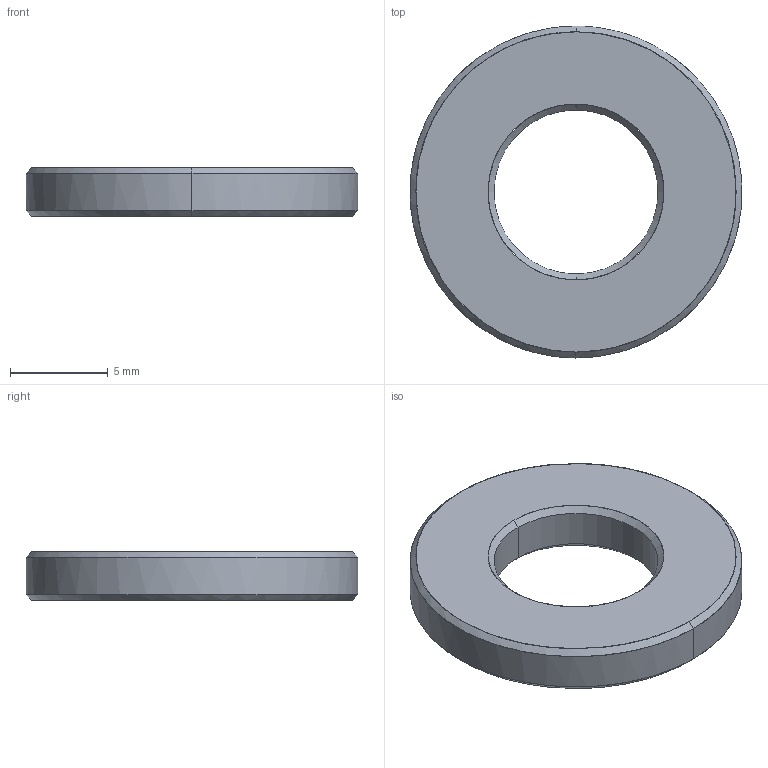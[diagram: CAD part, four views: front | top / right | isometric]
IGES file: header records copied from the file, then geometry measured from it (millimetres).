
Global section: file name: E:\UnigraphicsGraphicData\MISUMI_PRESS-PARTS\IGES\3d_wss8_00530_r00.igs; native system: NX V5.0; preprocessor: UGS NX IGES V5.0; author: MISUMI; date: 20110105.163508; units: millimetre
Bounding box: 16.98 x 17 x 2.5 mm (x, y, z)
Surface area: 515.5 mm2 (no closed solid volume)
Topology: 0 solids, 0 shells, 14 faces, 80 edges, 80 vertices
Faces by surface type: bspline 14
